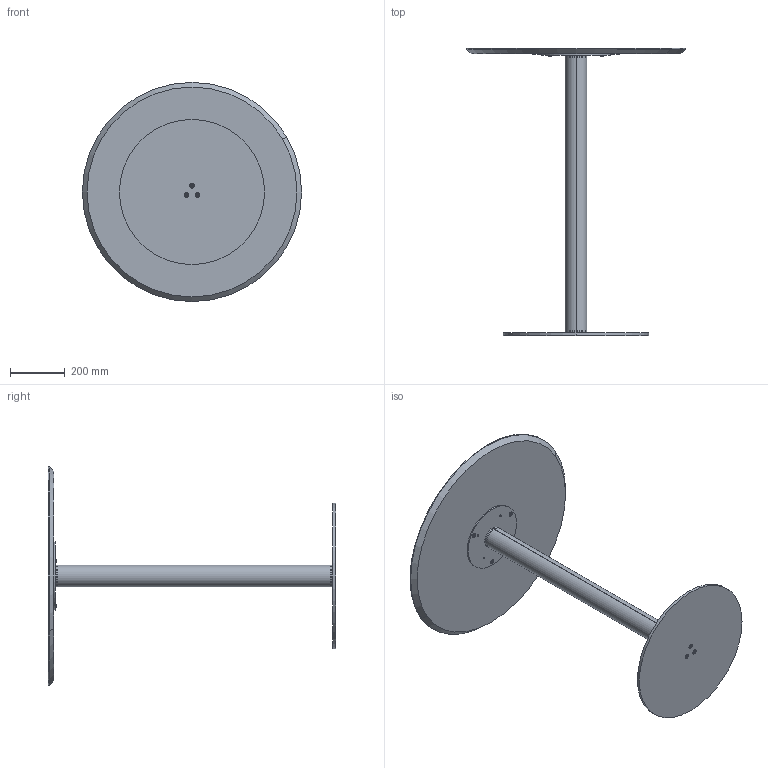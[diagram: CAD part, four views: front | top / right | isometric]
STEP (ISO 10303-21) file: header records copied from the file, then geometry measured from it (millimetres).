
FILE_DESCRIPTION (( 'STEP AP203' ), '1' );
FILE_NAME ('CB40W.STEP', '2024-08-08T08:53:36', ( '' ), ( '' ), 'SwSTEP 2.0', 'SolidWorks 2022', '' );
FILE_SCHEMA (( 'CONFIG_CONTROL_DESIGN' ));
Length unit declared in the file: millimetre
Products named in the file (7): W1XCMXX-00-Piani Rotondi legno_D.800 SP.20cm; CBSH00000COL-01-CILINDRO BISTRO COLONNA H105; M8xXXmm_M8x10mm; M8xXXmm_hex_M8X30mm; CB40W; CBS200000PST-00-CONTROPIASTRA PER PIASTRA D.25cm GREZZO_250; CBS000000BAS-00-BISTRO PIASTRA INFERIORE_D.530
Assembly tree (13 placements, depth 2):
  CB40W
    CBS000000BAS-00-BISTRO PIASTRA INFERIORE_D.530
    CBSH00000COL-01-CILINDRO BISTRO COLONNA H105
    W1XCMXX-00-Piani Rotondi legno_D.800 SP.20cm
    M8xXXmm_hex_M8X30mm  x6
    M8xXXmm_M8x10mm  x3
    CBS200000PST-00-CONTROPIASTRA PER PIASTRA D.25cm GREZZO_250
Bounding box: 800 x 1049 x 800 mm (x, y, z)
Volume: 12690740 mm3; surface area: 2119207.3 mm2
Topology: 15 solids, 15 shells, 413 faces, 882 edges, 486 vertices
Faces by surface type: plane 174, cylinder 110, cone 105, torus 24
Entity records: 5914 total; most frequent: DIRECTION 965, CARTESIAN_POINT 877, ORIENTED_EDGE 772, AXIS2_PLACEMENT_3D 405, EDGE_CURVE 386, VERTEX_POINT 231, EDGE_LOOP 225, CIRCLE 212
